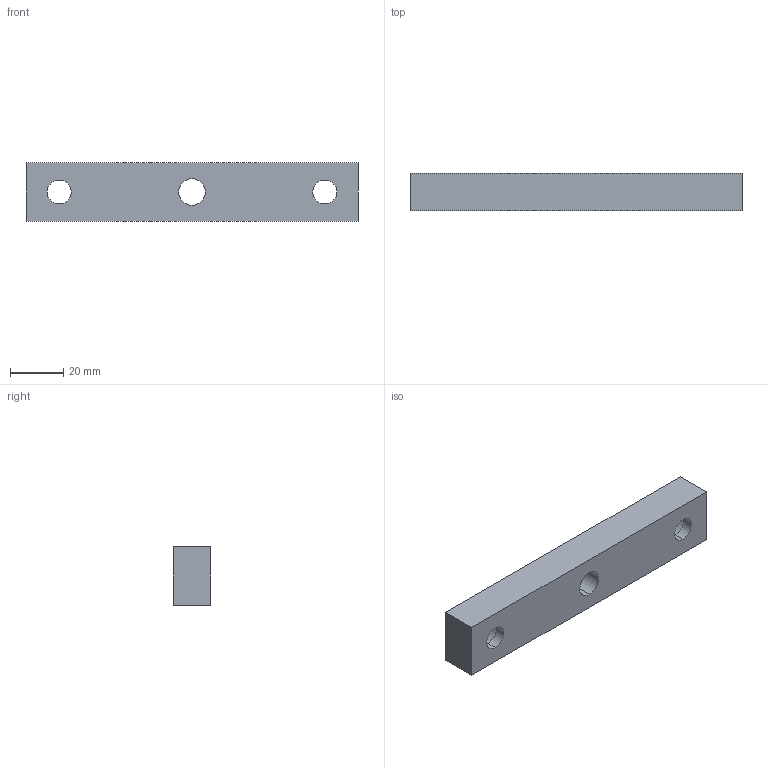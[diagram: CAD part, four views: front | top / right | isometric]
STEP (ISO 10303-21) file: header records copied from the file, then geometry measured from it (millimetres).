
FILE_DESCRIPTION(('CATIA V5 STEP Exchange'),'2;1');
FILE_NAME('C:\Users\Raffaele\Desktop\3D X SITO CF\761\GSB_OILLESS_M31705014125\STEP-2.03\761-014125.stp','2019-07-05T06:16:38+00:00',('none'),('none'),'CATIA Version 5 Release 20 GA (IN-10)','CATIA V5 STEP AP203','none');
FILE_SCHEMA(('CONFIG_CONTROL_DESIGN'));
Length unit declared in the file: millimetre
Products named in the file (1): 761-014125
Bounding box: 125 x 14 x 22 mm (x, y, z)
Volume: 32768.2 mm3; surface area: 10907.2 mm2
Topology: 1 solids, 1 shells, 21 faces, 72 edges, 56 vertices
Faces by surface type: cylinder 12, plane 9
Entity records: 978 total; most frequent: CARTESIAN_POINT 300, ORIENTED_EDGE 144, DIRECTION 102, EDGE_CURVE 72, AXIS2_PLACEMENT_3D 58, VERTEX_POINT 56, CIRCLE 36, EDGE_LOOP 30
